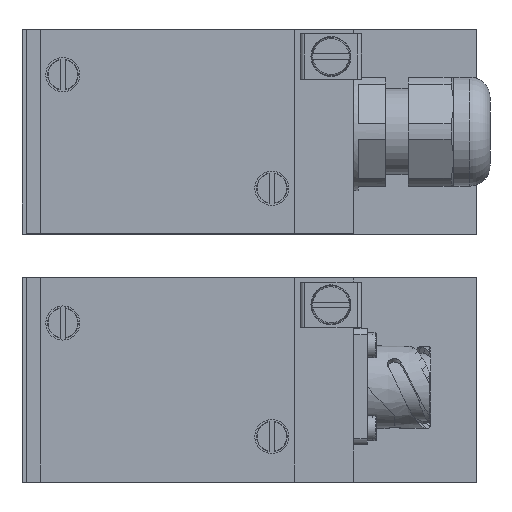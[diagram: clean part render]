
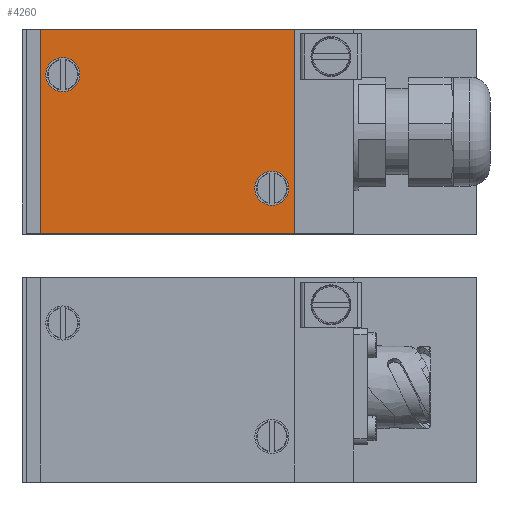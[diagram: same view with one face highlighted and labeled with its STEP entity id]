
A CAD part, top view. The second image highlights one B-rep face of the part: STEP entity #4260.
In plain terms, the highlighted planar face has unit normal (0, 0, 1).
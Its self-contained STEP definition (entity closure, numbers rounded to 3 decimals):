
#4260=ADVANCED_FACE('', (#4270,#4280,#4290), #4300, .T.);
#15330=AXIS2_PLACEMENT_3D('Ax2Pl3d', #15340, #15350, #15360);
#15410=AXIS2_PLACEMENT_3D('Ax2Pl3d', #15420, #15430, #15440);
#20210=AXIS2_PLACEMENT_3D('Ax2Pl3d', #20220, #20230, #20240);
#15340=CARTESIAN_POINT('HicPkt', (9.,35.,94.3));
#53800=CARTESIAN_POINT('', (9.,31.25,94.3));
#15420=CARTESIAN_POINT('HicPkt', (55.,10.,94.3));
#53810=CARTESIAN_POINT('', (55.,6.25,94.3));
#55600=CARTESIAN_POINT('', (60.,45.,94.3));
#55610=CARTESIAN_POINT('', (60.,0.,94.3));
#55620=CARTESIAN_POINT('', (60.,0.,94.3));
#55650=CARTESIAN_POINT('', (4.,45.,94.3));
#55660=CARTESIAN_POINT('', (60.,45.,94.3));
#20220=CARTESIAN_POINT('HicPkt', (60.,45.,94.3));
#55670=CARTESIAN_POINT('', (4.,45.,94.3));
#55680=CARTESIAN_POINT('', (4.,0.,94.3));
#55690=CARTESIAN_POINT('', (4.,0.,94.3));
#62040=CIRCLE('Circle', #15330, 3.75);
#62050=CIRCLE('Circle', #15410, 3.75);
#15350=DIRECTION('Axis', (0.,0.,1.));
#15360=DIRECTION('RefDirection', (1.,0.,0.));
#15430=DIRECTION('Axis', (0.,0.,1.));
#15440=DIRECTION('RefDirection', (1.,0.,0.));
#91760=DIRECTION('', (0.,-1.,0.));
#91790=DIRECTION('', (1.,0.,0.));
#20230=DIRECTION('Axis', (0.,0.,1.));
#20240=DIRECTION('RefDirection', (1.,0.,0.));
#91800=DIRECTION('', (0.,1.,0.));
#91810=DIRECTION('', (-1.,0.,0.));
#96860=EDGE_CURVE('', #96870, #96870, #62040, .T.);
#96880=EDGE_CURVE('', #96890, #96890, #62050, .T.);
#100200=EDGE_CURVE('', #100180, #100210, #100220, .T.);
#100280=EDGE_CURVE('', #100260, #100180, #100290, .T.);
#100300=EDGE_CURVE('', #100310, #100260, #100320, .T.);
#100330=EDGE_CURVE('', #100210, #100310, #100340, .T.);
#119090=EDGE_LOOP('Edge_loop', (#119100,#119110,#119120,#119130));
#119140=EDGE_LOOP('Edge_loop', (#119150));
#119160=EDGE_LOOP('Edge_loop', (#119170));
#4280=FACE_BOUND('', #119140, .T.);
#4290=FACE_BOUND('', #119160, .T.);
#4270=FACE_OUTER_BOUND('Face_outer_bound', #119090, .T.);
#100220=LINE('Line', #55610, #141080);
#100290=LINE('Line', #55660, #141110);
#100320=LINE('Line', #55670, #141120);
#100340=LINE('Line', #55690, #141130);
#119100=ORIENTED_EDGE('', *, *, #100200, .F.);
#119110=ORIENTED_EDGE('', *, *, #100280, .F.);
#119120=ORIENTED_EDGE('', *, *, #100300, .F.);
#119130=ORIENTED_EDGE('', *, *, #100330, .F.);
#119150=ORIENTED_EDGE('', *, *, #96860, .F.);
#119170=ORIENTED_EDGE('', *, *, #96880, .F.);
#4300=PLANE('Plane', #20210);
#141080=VECTOR('', #91760, 45.);
#141110=VECTOR('', #91790, 56.);
#141120=VECTOR('', #91800, 45.);
#141130=VECTOR('', #91810, 56.);
#96870=VERTEX_POINT('', #53800);
#96890=VERTEX_POINT('', #53810);
#100180=VERTEX_POINT('', #55600);
#100210=VERTEX_POINT('', #55620);
#100260=VERTEX_POINT('', #55650);
#100310=VERTEX_POINT('', #55680);
